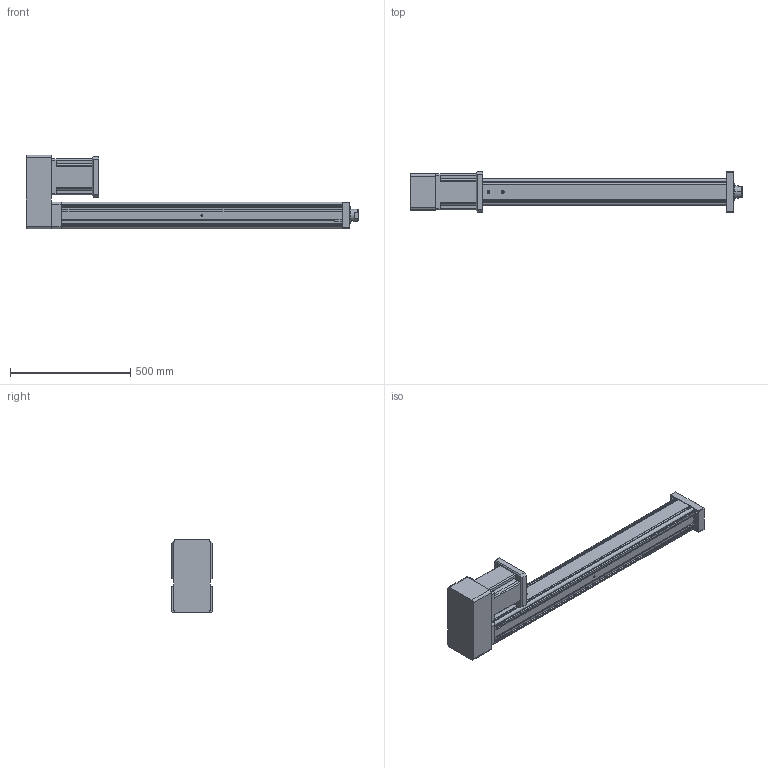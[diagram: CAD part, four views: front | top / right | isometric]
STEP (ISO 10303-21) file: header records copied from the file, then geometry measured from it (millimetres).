
FILE_DESCRIPTION (( 'STEP AP203' ), '1' );
FILE_NAME ('YRJ110-L1000-H3K2.STEP', '2020-01-04T06:34:25', ( 'User' ), ( 'China' ), 'SwSTEP 2.0', 'SolidWorks 2016', '' );
FILE_SCHEMA (( 'CONFIG_CONTROL_DESIGN' ));
Length unit declared in the file: millimetre
Products named in the file (7): 萇儂碟-110; 142熬厒儂; H3-110-1; H3-110-2; K2-110; YRJ110-L1000-H3K2; 095-100俴最倰第
Assembly tree (6 placements, depth 2):
  YRJ110-L1000-H3K2
    095-100俴最倰第
    萇儂碟-110
    142熬厒儂
    H3-110-1
    H3-110-2
    K2-110
Bounding box: 1381 x 170 x 305.5 mm (x, y, z)
Volume: 14695278.7 mm3; surface area: 1505838.3 mm2
Topology: 6 solids, 6 shells, 306 faces, 850 edges, 549 vertices
Faces by surface type: plane 165, cylinder 114, cone 27
Entity records: 10786 total; most frequent: CARTESIAN_POINT 2038, DIRECTION 1685, ORIENTED_EDGE 1668, EDGE_CURVE 834, LINE 569, VECTOR 569, AXIS2_PLACEMENT_3D 558, VERTEX_POINT 549
